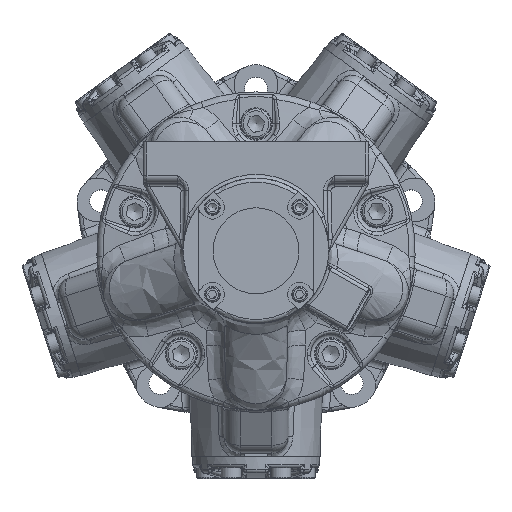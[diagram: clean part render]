
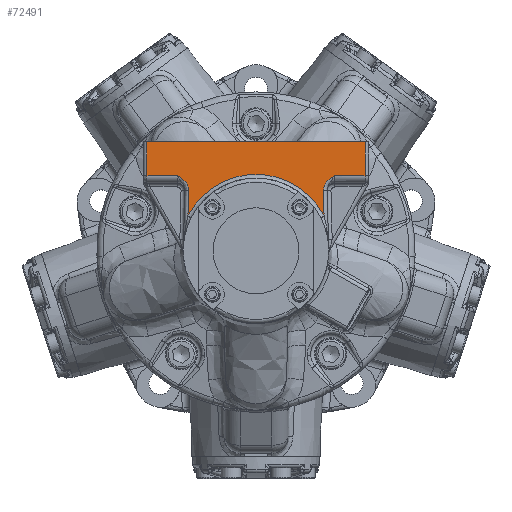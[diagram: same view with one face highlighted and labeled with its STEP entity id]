
A CAD part, top view. The second image highlights one B-rep face of the part: STEP entity #72491.
In plain terms, the highlighted planar face has unit normal (0, 0, 1).
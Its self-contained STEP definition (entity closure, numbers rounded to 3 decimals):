
#5407=B_SPLINE_CURVE_WITH_KNOTS('',3,(#179181,#179182,#179183,#179184,#179185,
#179186,#179187,#179188,#179189,#179190,#179191,#179192),.UNSPECIFIED.,
 .F.,.F.,(4,2,1,1,1,1,1,1,4),(-0.001,0.,0.309,0.463,
0.617,0.771,0.926,1.234,1.543),
 .UNSPECIFIED.);
#5410=B_SPLINE_CURVE_WITH_KNOTS('',3,(#179323,#179324,#179325,#179326,#179327,
#179328,#179329,#179330,#179331,#179332,#179333,#179334),.UNSPECIFIED.,
 .F.,.F.,(4,1,1,1,1,1,1,2,4),(0.,0.309,0.617,0.926,
1.08,1.234,1.388,1.543,1.544),
 .UNSPECIFIED.);
#9986=LINE('',#178911,#12949);
#9991=LINE('',#179209,#12954);
#10029=LINE('',#180411,#12992);
#10034=LINE('',#180451,#12997);
#10068=LINE('',#181264,#13031);
#10069=LINE('',#181266,#13032);
#10070=LINE('',#181268,#13033);
#12949=VECTOR('',#89917,10.);
#12954=VECTOR('',#89976,10.);
#12992=VECTOR('',#90134,10.);
#12997=VECTOR('',#90155,10.);
#13031=VECTOR('',#90359,10.);
#13032=VECTOR('',#90360,10.);
#13033=VECTOR('',#90363,10.);
#14348=PLANE('',#77731);
#18018=FACE_OUTER_BOUND('',#22549,.T.);
#22549=EDGE_LOOP('',(#60027,#60028,#60029,#60030,#60031,#60032,#60033,#60034,
#60035,#60036));
#25618=CIRCLE('',#77732,61.);
#31672=VERTEX_POINT('',#178905);
#31674=VERTEX_POINT('',#178909);
#31694=VERTEX_POINT('',#179101);
#31697=VERTEX_POINT('',#179179);
#31699=VERTEX_POINT('',#179195);
#31702=VERTEX_POINT('',#179322);
#31759=VERTEX_POINT('',#180407);
#31768=VERTEX_POINT('',#180448);
#31824=VERTEX_POINT('',#181263);
#31825=VERTEX_POINT('',#181265);
#41143=EDGE_CURVE('',#31674,#31672,#9986,.T.);
#41174=EDGE_CURVE('',#31694,#31697,#5407,.T.);
#41177=EDGE_CURVE('',#31697,#31699,#9991,.T.);
#41181=EDGE_CURVE('',#31702,#31674,#5410,.T.);
#41287=EDGE_CURVE('',#31672,#31759,#10029,.T.);
#41299=EDGE_CURVE('',#31768,#31694,#10034,.T.);
#41407=EDGE_CURVE('',#31824,#31759,#10068,.T.);
#41408=EDGE_CURVE('',#31825,#31702,#10069,.T.);
#41409=EDGE_CURVE('',#31699,#31825,#25618,.T.);
#41410=EDGE_CURVE('',#31824,#31768,#10070,.T.);
#60027=ORIENTED_EDGE('',*,*,#41407,.T.);
#60028=ORIENTED_EDGE('',*,*,#41287,.F.);
#60029=ORIENTED_EDGE('',*,*,#41143,.F.);
#60030=ORIENTED_EDGE('',*,*,#41181,.F.);
#60031=ORIENTED_EDGE('',*,*,#41408,.F.);
#60032=ORIENTED_EDGE('',*,*,#41409,.F.);
#60033=ORIENTED_EDGE('',*,*,#41177,.F.);
#60034=ORIENTED_EDGE('',*,*,#41174,.F.);
#60035=ORIENTED_EDGE('',*,*,#41299,.F.);
#60036=ORIENTED_EDGE('',*,*,#41410,.F.);
#72491=ADVANCED_FACE('',(#18018),#14348,.T.);
#77731=AXIS2_PLACEMENT_3D('',#181262,#90357,#90358);
#77732=AXIS2_PLACEMENT_3D('',#181267,#90361,#90362);
#89917=DIRECTION('',(-1.,0.,0.));
#89976=DIRECTION('',(0.025,-1.,0.));
#90134=DIRECTION('',(0.,1.,0.));
#90155=DIRECTION('',(-1.,0.,0.));
#90357=DIRECTION('center_axis',(0.,0.,
1.));
#90358=DIRECTION('ref_axis',(-1.,0.,0.));
#90359=DIRECTION('',(-1.,0.,0.));
#90360=DIRECTION('',(0.025,1.,0.));
#90361=DIRECTION('center_axis',(0.,0.,
1.));
#90362=DIRECTION('ref_axis',(0.,1.,0.));
#90363=DIRECTION('',(0.,-1.,0.));
#178905=CARTESIAN_POINT('',(-87.,60.,279.658));
#178909=CARTESIAN_POINT('',(-62.519,60.,279.658));
#178911=CARTESIAN_POINT('',(-45.,60.,279.658));
#179101=CARTESIAN_POINT('',(62.519,60.,279.658));
#179179=CARTESIAN_POINT('',(53.812,48.156,279.658));
#179181=CARTESIAN_POINT('Ctrl Pts',(62.519,60.,279.658));
#179182=CARTESIAN_POINT('Ctrl Pts',(62.515,59.998,279.658));
#179183=CARTESIAN_POINT('Ctrl Pts',(62.511,59.995,279.658));
#179184=CARTESIAN_POINT('Ctrl Pts',(61.63,59.456,279.658));
#179185=CARTESIAN_POINT('Ctrl Pts',(60.314,58.649,279.658));
#179186=CARTESIAN_POINT('Ctrl Pts',(58.654,57.43,279.658));
#179187=CARTESIAN_POINT('Ctrl Pts',(57.478,56.411,279.658));
#179188=CARTESIAN_POINT('Ctrl Pts',(56.42,55.29,279.658));
#179189=CARTESIAN_POINT('Ctrl Pts',(55.184,53.624,279.658));
#179190=CARTESIAN_POINT('Ctrl Pts',(54.074,51.271,279.658));
#179191=CARTESIAN_POINT('Ctrl Pts',(53.787,49.184,279.658));
#179192=CARTESIAN_POINT('Ctrl Pts',(53.812,48.156,279.658));
#179195=CARTESIAN_POINT('',(54.323,27.749,279.658));
#179209=CARTESIAN_POINT('',(53.83,47.472,279.658));
#179322=CARTESIAN_POINT('',(-53.812,48.156,279.658));
#179323=CARTESIAN_POINT('Ctrl Pts',(-53.812,48.156,279.658));
#179324=CARTESIAN_POINT('Ctrl Pts',(-53.787,49.184,
279.658));
#179325=CARTESIAN_POINT('Ctrl Pts',(-54.071,51.266,279.658));
#179326=CARTESIAN_POINT('Ctrl Pts',(-55.409,54.101,
279.658));
#179327=CARTESIAN_POINT('Ctrl Pts',(-57.09,56.078,
279.658));
#179328=CARTESIAN_POINT('Ctrl Pts',(-58.654,57.43,
279.658));
#179329=CARTESIAN_POINT('Ctrl Pts',(-59.9,58.345,279.658));
#179330=CARTESIAN_POINT('Ctrl Pts',(-61.192,59.188,
279.658));
#179331=CARTESIAN_POINT('Ctrl Pts',(-62.069,59.725,
279.658));
#179332=CARTESIAN_POINT('Ctrl Pts',(-62.511,59.995,
279.658));
#179333=CARTESIAN_POINT('Ctrl Pts',(-62.515,59.998,
279.658));
#179334=CARTESIAN_POINT('Ctrl Pts',(-62.519,60.,279.658));
#180407=CARTESIAN_POINT('',(-87.,87.1,279.658));
#180411=CARTESIAN_POINT('',(-87.,90.,279.658));
#180448=CARTESIAN_POINT('',(87.,60.,279.658));
#180451=CARTESIAN_POINT('',(-45.,60.,279.658));
#181262=CARTESIAN_POINT('Origin',(-90.,90.,279.658));
#181263=CARTESIAN_POINT('',(87.,87.1,279.658));
#181264=CARTESIAN_POINT('',(-40.349,87.1,279.658));
#181265=CARTESIAN_POINT('',(-54.323,27.749,279.658));
#181266=CARTESIAN_POINT('',(-53.886,45.222,279.658));
#181267=CARTESIAN_POINT('Origin',(0.,0.,
279.658));
#181268=CARTESIAN_POINT('',(87.,90.,279.658));
